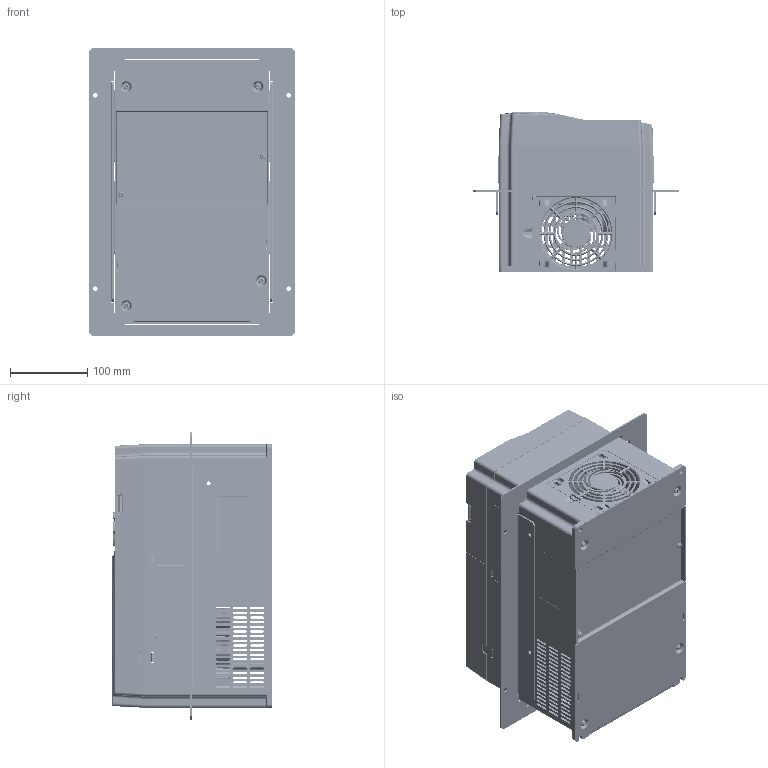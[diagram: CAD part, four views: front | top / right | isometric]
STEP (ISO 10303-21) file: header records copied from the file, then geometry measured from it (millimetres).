
FILE_DESCRIPTION((''),'2;1');
FILE_NAME('ST600-022G3_ASM','2019-07-04T',('Administrator'),(''),'PRO/ENGINEER BY PARAMETRIC TECHNOLOGY CORPORATION, 2010100','PRO/ENGINEER BY PARAMETRIC TECHNOLOGY CORPORATION, 2010100','');
FILE_SCHEMA(('CONFIG_CONTROL_DESIGN'));
Products named in the file (51): 80710014; 80740124; 80780039; 80880161; 80740186; 80740185; 80880501; 80780080; 80810110; 80810111; 80810111SY; 70610262; 80310325; 86050540; PA1477_DR1-B; E-TB09-17MM-T; PA1477_DR1-B_ASM; FAN-CONN-1; FAN-CONN-2; FAN-CONN_ASM; 80383656; 80740019; PA1704_CT1_A2; E-DIN0309-5_08MM-TA; E-DIN0302-5_08MM-TA; E-USB08-TF; E-IDC34-ORM1; E-MJ0204-R; E-MJ0204-100T; KUOZHIDINGZHU; PA1704_CT1_A2_ASM; 0_ST600_PCB_ASM; ST600-022G3-ES_ASM; GB9074_4_M4X12; GB6560_M5X16; 77340010; ST600-022G3-FS_ASM; 80740163; 80740162; 80880456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
Assembly tree (66 placements, depth 5):
  ST600-022G3_ASM
    80710014
    80740124
    80780039
    80880161
    80740186
    80740185
    80880501
    80780080
    80810110
    80810111
    80810111SY
    70610262
    80310325
    86050540
    ST600-022G3-ES_ASM
      PA1477_DR1-B_ASM
        PA1477_DR1-B
        E-TB09-17MM-T
      FAN-CONN_ASM
        FAN-CONN-1
        FAN-CONN-2
      80383656
      80740019  x4
      0_ST600_PCB_ASM
        PA1704_CT1_A2_ASM
          PA1704_CT1_A2
          E-DIN0309-5_08MM-TA
          E-DIN0302-5_08MM-TA
          E-USB08-TF
          E-IDC34-ORM1
          E-MJ0204-R
          E-MJ0204-100T
          KUOZHIDINGZHU  x3
    ST600-022G3-FS_ASM
      GB9074_4_M4X12  x10
      GB6560_M5X16  x2
      77340010
    KEY-LCD01-ZY-600_ASM
      80740163
      40810091_ASM
        80740162
        80880456
        80880456SY
      80740164
      80740164SY
      KEY-LCD01-ZY-600-ES_ASM
        36002-00065
        39009-00082
        17003-02723_20180403_ASM
          17003-02723_20180403
          E-MJ0204-100T
Bounding box: 266 x 207.15 x 371 mm (x, y, z)
Volume: 2673465.3 mm3; surface area: 2373098.1 mm2
Topology: 59 solids, 59 shells, 22093 faces, 61859 edges, 40203 vertices
Faces by surface type: plane 11719, cylinder 7508, torus 1207, cone 597, bspline 583, extrusion 354, sphere 125
Entity records: 744448 total; most frequent: CARTESIAN_POINT 178954, ORIENTED_EDGE 120440, DIRECTION 112913, EDGE_CURVE 60220, VECTOR 39353, VERTEX_POINT 39197, LINE 38999, AXIS2_PLACEMENT_3D 36780
